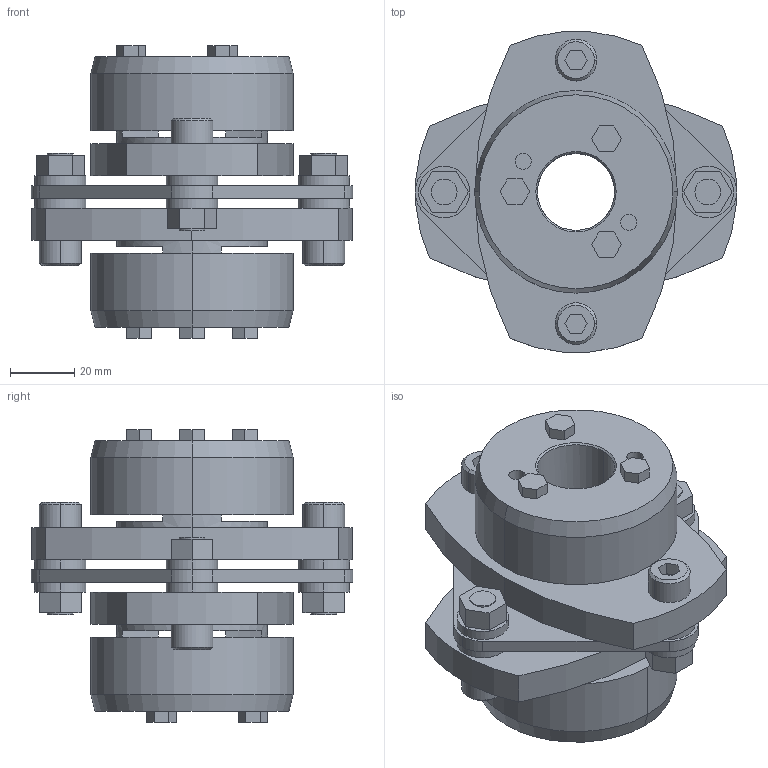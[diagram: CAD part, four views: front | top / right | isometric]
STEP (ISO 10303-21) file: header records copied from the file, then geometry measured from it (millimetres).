
FILE_DESCRIPTION((''),'2;1');
FILE_NAME('LCS-100T7-24×24.stp','2015-11-02T07:40:19',(''),(''),'AutoCAD STEP 2000i','AutoCAD 2000i',', , ');
FILE_SCHEMA(('CONFIG_CONTROL_DESIGN'));
Length unit declared in the file: millimetre
Products named in the file (7): LCS-100T7-25×25; 忣兜1; LC100T7-T025-1; LC100T7-T025; LC100T7-T022-1; LC100T7-T022; LCS100-ITA
Assembly tree (6 placements, depth 2):
  LCS-100T7-25×25
    忣兜1
    LC100T7-T025-1
    LC100T7-T025
    LC100T7-T022-1
    LC100T7-T022
    LCS100-ITA
Bounding box: 100 x 99.93 x 91 mm (x, y, z)
Volume: 256143.7 mm3; surface area: 62818.2 mm2
Topology: 1 solids, 1 shells, 232 faces, 568 edges, 372 vertices
Faces by surface type: plane 132, cylinder 80, cone 20
Entity records: 7063 total; most frequent: DIRECTION 1242, CARTESIAN_POINT 1179, ORIENTED_EDGE 1136, EDGE_CURVE 568, AXIS2_PLACEMENT_3D 435, VERTEX_POINT 372, VECTOR 372, LINE 372
